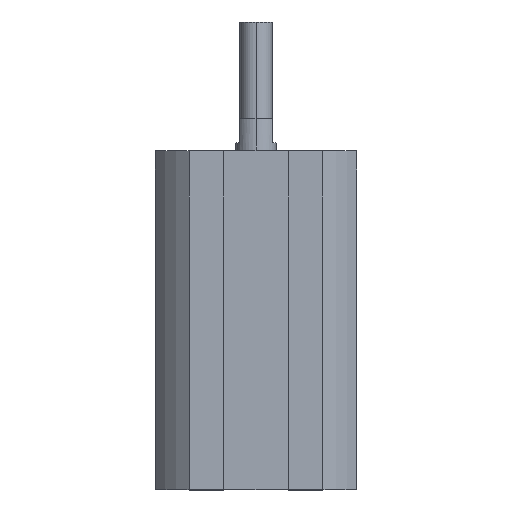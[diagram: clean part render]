
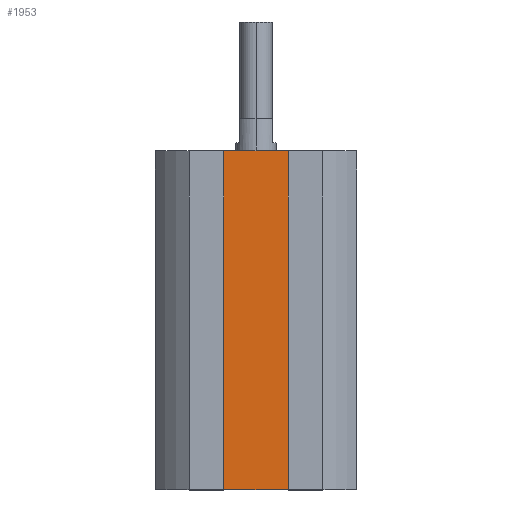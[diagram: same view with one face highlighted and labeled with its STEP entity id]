
A CAD part, top view. The second image highlights one B-rep face of the part: STEP entity #1953.
In plain terms, the highlighted planar face has unit normal (0, 0, 1).
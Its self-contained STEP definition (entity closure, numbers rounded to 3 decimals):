
#5 = ORIENTED_EDGE ( 'NONE', *, *, #993, .F. ) ;
#22 = DIRECTION ( 'NONE',  ( 0., 0., 1. ) ) ;
#125 = VERTEX_POINT ( 'NONE', #1224 ) ;
#211 = ORIENTED_EDGE ( 'NONE', *, *, #1897, .T. ) ;
#377 = CARTESIAN_POINT ( 'NONE',  ( 0., -42., 7.8 ) ) ;
#388 = DIRECTION ( 'NONE',  ( 1., 0., 0. ) ) ;
#394 = DIRECTION ( 'NONE',  ( 0., 1., 0. ) ) ;
#396 = EDGE_LOOP ( 'NONE', ( #5, #1524, #211, #507 ) ) ;
#401 = CARTESIAN_POINT ( 'NONE',  ( 0., 0., 7.8 ) ) ;
#459 = DIRECTION ( 'NONE',  ( 0., 1., 0. ) ) ;
#507 = ORIENTED_EDGE ( 'NONE', *, *, #1981, .T. ) ;
#552 = DIRECTION ( 'NONE',  ( 1., 0., 0. ) ) ;
#711 = EDGE_CURVE ( 'NONE', #125, #1717, #1243, .T. ) ;
#742 = CARTESIAN_POINT ( 'NONE',  ( 0., -42., 7.8 ) ) ;
#779 = LINE ( 'NONE', #1626, #2186 ) ;
#828 = FACE_OUTER_BOUND ( 'NONE', #396, .T. ) ;
#832 = LINE ( 'NONE', #742, #1245 ) ;
#841 = VERTEX_POINT ( 'NONE', #999 ) ;
#982 = CARTESIAN_POINT ( 'NONE',  ( -4., -42., 7.8 ) ) ;
#993 = EDGE_CURVE ( 'NONE', #1717, #841, #1445, .T. ) ;
#999 = CARTESIAN_POINT ( 'NONE',  ( 4., 0., 7.8 ) ) ;
#1136 = VECTOR ( 'NONE', #459, 1000. ) ;
#1224 = CARTESIAN_POINT ( 'NONE',  ( -4., -42., 7.8 ) ) ;
#1243 = LINE ( 'NONE', #982, #1136 ) ;
#1245 = VECTOR ( 'NONE', #1266, 1000. ) ;
#1266 = DIRECTION ( 'NONE',  ( 1., 0., 0. ) ) ;
#1288 = VERTEX_POINT ( 'NONE', #1739 ) ;
#1429 = PLANE ( 'NONE',  #1774 ) ;
#1445 = LINE ( 'NONE', #401, #1558 ) ;
#1524 = ORIENTED_EDGE ( 'NONE', *, *, #711, .F. ) ;
#1536 = CARTESIAN_POINT ( 'NONE',  ( -4., 0., 7.8 ) ) ;
#1558 = VECTOR ( 'NONE', #388, 1000. ) ;
#1626 = CARTESIAN_POINT ( 'NONE',  ( 4., -42., 7.8 ) ) ;
#1717 = VERTEX_POINT ( 'NONE', #1536 ) ;
#1739 = CARTESIAN_POINT ( 'NONE',  ( 4., -42., 7.8 ) ) ;
#1774 = AXIS2_PLACEMENT_3D ( 'NONE', #377, #22, #552 ) ;
#1897 = EDGE_CURVE ( 'NONE', #125, #1288, #832, .T. ) ;
#1953 = ADVANCED_FACE ( 'NONE', ( #828 ), #1429, .T. ) ;
#1981 = EDGE_CURVE ( 'NONE', #1288, #841, #779, .T. ) ;
#2186 = VECTOR ( 'NONE', #394, 1000. ) ;
